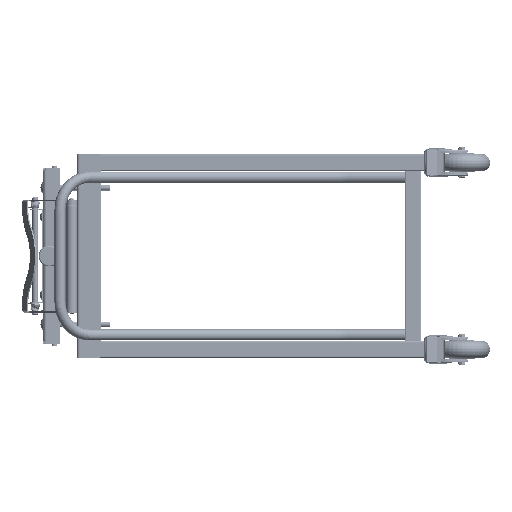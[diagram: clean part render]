
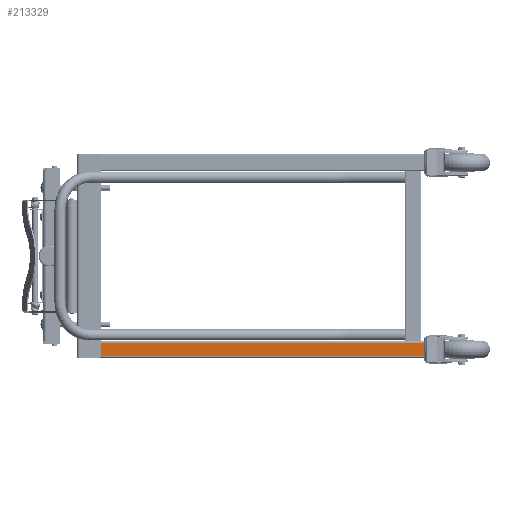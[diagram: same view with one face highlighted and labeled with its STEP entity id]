
A CAD part, left-side view. The second image highlights one B-rep face of the part: STEP entity #213329.
In plain terms, the highlighted planar face has unit normal (-1, 0, 0).
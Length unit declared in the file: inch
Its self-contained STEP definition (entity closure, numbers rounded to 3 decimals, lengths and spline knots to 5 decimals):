
#1361 = DIRECTION ( 'NONE',  ( 0., 0., -1. ) ) ;
#4185 = PLANE ( 'NONE',  #36420 ) ;
#7732 = VECTOR ( 'NONE', #108220, 39.37008 ) ;
#8345 = VECTOR ( 'NONE', #252133, 39.37008 ) ;
#10771 = ORIENTED_EDGE ( 'NONE', *, *, #229412, .F. ) ;
#20724 = CARTESIAN_POINT ( 'NONE',  ( -13., 0., -9. ) ) ;
#36420 = AXIS2_PLACEMENT_3D ( 'NONE', #194681, #84627, #1361 ) ;
#39132 = CARTESIAN_POINT ( 'NONE',  ( -13., 0., -7.75 ) ) ;
#43100 = LINE ( 'NONE', #86849, #8345 ) ;
#43303 = LINE ( 'NONE', #20724, #7732 ) ;
#45583 = ORIENTED_EDGE ( 'NONE', *, *, #191832, .F. ) ;
#58908 = DIRECTION ( 'NONE',  ( 0., 0., 1. ) ) ;
#64215 = LINE ( 'NONE', #150299, #255321 ) ;
#84627 = DIRECTION ( 'NONE',  ( 1., 0., 0. ) ) ;
#86849 = CARTESIAN_POINT ( 'NONE',  ( -13., 0., -9. ) ) ;
#87646 = EDGE_CURVE ( 'NONE', #240372, #199194, #190103, .T. ) ;
#105125 = DIRECTION ( 'NONE',  ( 0., 1., 0. ) ) ;
#108220 = DIRECTION ( 'NONE',  ( 0., 1., 0. ) ) ;
#116881 = VECTOR ( 'NONE', #58908, 39.37008 ) ;
#145785 = CARTESIAN_POINT ( 'NONE',  ( -13., 31., -7.75 ) ) ;
#150299 = CARTESIAN_POINT ( 'NONE',  ( -13., 0., -7.75 ) ) ;
#150956 = FACE_OUTER_BOUND ( 'NONE', #221953, .T. ) ;
#152051 = VERTEX_POINT ( 'NONE', #39132 ) ;
#157335 = VERTEX_POINT ( 'NONE', #161447 ) ;
#161447 = CARTESIAN_POINT ( 'NONE',  ( -13., 0., -9. ) ) ;
#190103 = LINE ( 'NONE', #208497, #116881 ) ;
#191832 = EDGE_CURVE ( 'NONE', #157335, #240372, #43303, .T. ) ;
#194681 = CARTESIAN_POINT ( 'NONE',  ( -13., 0., -9. ) ) ;
#197243 = ORIENTED_EDGE ( 'NONE', *, *, #87646, .F. ) ;
#199194 = VERTEX_POINT ( 'NONE', #145785 ) ;
#200131 = ORIENTED_EDGE ( 'NONE', *, *, #206511, .T. ) ;
#206511 = EDGE_CURVE ( 'NONE', #152051, #199194, #64215, .T. ) ;
#208497 = CARTESIAN_POINT ( 'NONE',  ( -13., 31., -9. ) ) ;
#213329 = ADVANCED_FACE ( 'NONE', ( #150956 ), #4185, .F. ) ;
#221953 = EDGE_LOOP ( 'NONE', ( #197243, #45583, #10771, #200131 ) ) ;
#229412 = EDGE_CURVE ( 'NONE', #152051, #157335, #43100, .T. ) ;
#240372 = VERTEX_POINT ( 'NONE', #253718 ) ;
#252133 = DIRECTION ( 'NONE',  ( 0., 0., -1. ) ) ;
#253718 = CARTESIAN_POINT ( 'NONE',  ( -13., 31., -9. ) ) ;
#255321 = VECTOR ( 'NONE', #105125, 39.37008 ) ;
